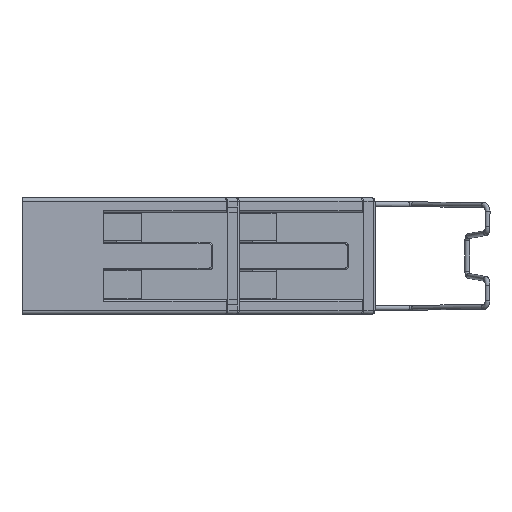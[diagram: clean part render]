
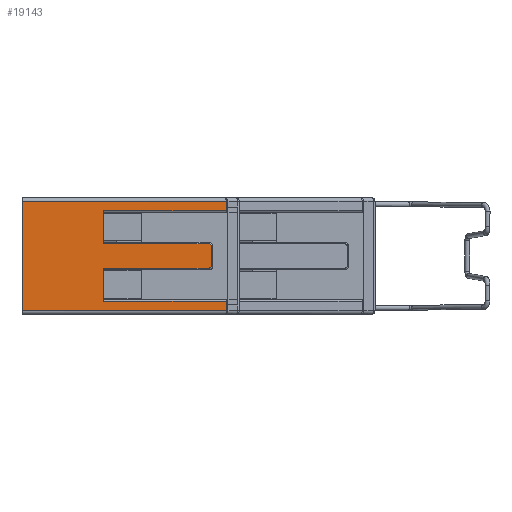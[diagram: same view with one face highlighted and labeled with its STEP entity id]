
A CAD part, left-side view. The second image highlights one B-rep face of the part: STEP entity #19143.
In plain terms, the highlighted planar face has unit normal (-1, -0.006, 0).
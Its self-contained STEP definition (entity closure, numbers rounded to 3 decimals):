
#451=B_SPLINE_CURVE_WITH_KNOTS('',3,(#32672,#32673,#32674,#32675),
 .UNSPECIFIED.,.F.,.F.,(4,4),(0.,1.),.UNSPECIFIED.);
#452=B_SPLINE_CURVE_WITH_KNOTS('',3,(#32679,#32680,#32681,#32682),
 .UNSPECIFIED.,.F.,.F.,(4,4),(0.,1.),.UNSPECIFIED.);
#2006=ORIENTED_EDGE('',*,*,#7049,.T.);
#2007=ORIENTED_EDGE('',*,*,#7050,.T.);
#2008=ORIENTED_EDGE('',*,*,#7051,.T.);
#2009=ORIENTED_EDGE('',*,*,#7052,.T.);
#2010=ORIENTED_EDGE('',*,*,#7053,.T.);
#2011=ORIENTED_EDGE('',*,*,#7054,.T.);
#2012=ORIENTED_EDGE('',*,*,#7055,.T.);
#2013=ORIENTED_EDGE('',*,*,#7056,.T.);
#2014=ORIENTED_EDGE('',*,*,#7057,.T.);
#2015=ORIENTED_EDGE('',*,*,#7047,.F.);
#2016=ORIENTED_EDGE('',*,*,#6752,.F.);
#2017=ORIENTED_EDGE('',*,*,#6795,.F.);
#2018=ORIENTED_EDGE('',*,*,#7058,.T.);
#2019=ORIENTED_EDGE('',*,*,#7059,.T.);
#6752=EDGE_CURVE('',#9850,#9851,#12040,.T.);
#6795=EDGE_CURVE('',#9876,#9850,#12059,.T.);
#7047=EDGE_CURVE('',#9851,#10050,#12240,.T.);
#7049=EDGE_CURVE('',#10051,#10052,#12241,.T.);
#7050=EDGE_CURVE('',#10052,#10053,#12242,.T.);
#7051=EDGE_CURVE('',#10053,#10054,#451,.T.);
#7052=EDGE_CURVE('',#10054,#10055,#12243,.T.);
#7053=EDGE_CURVE('',#10055,#10056,#452,.T.);
#7054=EDGE_CURVE('',#10056,#10057,#12244,.T.);
#7055=EDGE_CURVE('',#10057,#10058,#12245,.T.);
#7056=EDGE_CURVE('',#10058,#10059,#12246,.T.);
#7057=EDGE_CURVE('',#10059,#10050,#12247,.T.);
#7058=EDGE_CURVE('',#9876,#10060,#12248,.T.);
#7059=EDGE_CURVE('',#10060,#10051,#12249,.T.);
#9850=VERTEX_POINT('',#31540);
#9851=VERTEX_POINT('',#31542);
#9876=VERTEX_POINT('',#31700);
#10050=VERTEX_POINT('',#32660);
#10051=VERTEX_POINT('',#32668);
#10052=VERTEX_POINT('',#32669);
#10053=VERTEX_POINT('',#32671);
#10054=VERTEX_POINT('',#32676);
#10055=VERTEX_POINT('',#32678);
#10056=VERTEX_POINT('',#32683);
#10057=VERTEX_POINT('',#32685);
#10058=VERTEX_POINT('',#32687);
#10059=VERTEX_POINT('',#32689);
#10060=VERTEX_POINT('',#32692);
#12040=LINE('',#31541,#14375);
#12059=LINE('',#31701,#14394);
#12240=LINE('',#32659,#14575);
#12241=LINE('',#32667,#14576);
#12242=LINE('',#32670,#14577);
#12243=LINE('',#32677,#14578);
#12244=LINE('',#32684,#14579);
#12245=LINE('',#32686,#14580);
#12246=LINE('',#32688,#14581);
#12247=LINE('',#32690,#14582);
#12248=LINE('',#32691,#14583);
#12249=LINE('',#32693,#14584);
#14375=VECTOR('',#26456,1000.);
#14394=VECTOR('',#26507,1000.);
#14575=VECTOR('',#26818,1000.);
#14576=VECTOR('',#26821,1000.);
#14577=VECTOR('',#26822,1000.);
#14578=VECTOR('',#26823,1000.);
#14579=VECTOR('',#26824,1000.);
#14580=VECTOR('',#26825,1000.);
#14581=VECTOR('',#26826,1000.);
#14582=VECTOR('',#26827,1000.);
#14583=VECTOR('',#26828,1000.);
#14584=VECTOR('',#26829,1000.);
#16530=EDGE_LOOP('',(#2006,#2007,#2008,#2009,#2010,#2011,#2012,#2013,#2014,
#2015,#2016,#2017,#2018,#2019));
#17539=FACE_BOUND('',#16530,.T.);
#18488=PLANE('',#24938);
#19143=ADVANCED_FACE('',(#17539),#18488,.T.);
#24938=AXIS2_PLACEMENT_3D('',#32666,#26819,#26820);
#26456=DIRECTION('',(0.,0.,1.));
#26507=DIRECTION('',(-0.006,1.,0.));
#26818=DIRECTION('',(0.006,-1.,0.));
#26819=DIRECTION('',(-1.,-0.006,0.));
#26820=DIRECTION('',(0.006,-1.,0.));
#26821=DIRECTION('',(0.,0.,1.));
#26822=DIRECTION('',(0.006,-1.,0.));
#26823=DIRECTION('',(0.,0.,1.));
#26824=DIRECTION('',(-0.006,1.,0.));
#26825=DIRECTION('',(0.,0.,1.));
#26826=DIRECTION('',(0.006,-1.,0.));
#26827=DIRECTION('',(0.,0.,1.));
#26828=DIRECTION('',(0.,0.,1.));
#26829=DIRECTION('',(-0.006,1.,0.));
#31540=CARTESIAN_POINT('',(-22.078,96.07,-2.34));
#31541=CARTESIAN_POINT('',(-22.078,96.071,4.91));
#31542=CARTESIAN_POINT('',(-22.078,96.07,12.16));
#31700=CARTESIAN_POINT('',(-21.924,68.969,-2.34));
#31701=CARTESIAN_POINT('',(-22.001,82.52,-2.34));
#32659=CARTESIAN_POINT('',(-22.001,82.52,12.16));
#32660=CARTESIAN_POINT('',(-21.924,68.969,12.16));
#32666=CARTESIAN_POINT('',(-22.086,97.426,-3.065));
#32667=CARTESIAN_POINT('',(-22.017,85.272,1.1));
#32668=CARTESIAN_POINT('',(-22.017,85.271,-1.1));
#32669=CARTESIAN_POINT('',(-22.017,85.271,3.3));
#32670=CARTESIAN_POINT('',(-21.977,78.271,3.3));
#32671=CARTESIAN_POINT('',(-21.937,71.27,3.3));
#32672=CARTESIAN_POINT('',(-21.937,71.27,3.3));
#32673=CARTESIAN_POINT('',(-21.936,71.112,3.3));
#32674=CARTESIAN_POINT('',(-21.935,70.97,3.44));
#32675=CARTESIAN_POINT('',(-21.935,70.97,3.6));
#32676=CARTESIAN_POINT('',(-21.935,70.97,3.6));
#32677=CARTESIAN_POINT('',(-21.935,70.97,4.91));
#32678=CARTESIAN_POINT('',(-21.935,70.97,6.22));
#32679=CARTESIAN_POINT('',(-21.935,70.97,6.22));
#32680=CARTESIAN_POINT('',(-21.935,70.97,6.378));
#32681=CARTESIAN_POINT('',(-21.936,71.111,6.52));
#32682=CARTESIAN_POINT('',(-21.937,71.27,6.52));
#32683=CARTESIAN_POINT('',(-21.937,71.27,6.52));
#32684=CARTESIAN_POINT('',(-21.977,78.271,6.52));
#32685=CARTESIAN_POINT('',(-22.017,85.271,6.52));
#32686=CARTESIAN_POINT('',(-22.017,85.272,8.72));
#32687=CARTESIAN_POINT('',(-22.017,85.271,10.92));
#32688=CARTESIAN_POINT('',(-21.97,77.12,10.92));
#32689=CARTESIAN_POINT('',(-21.924,68.969,10.92));
#32690=CARTESIAN_POINT('',(-21.924,68.969,11.54));
#32691=CARTESIAN_POINT('',(-21.924,68.969,-1.72));
#32692=CARTESIAN_POINT('',(-21.924,68.969,-1.1));
#32693=CARTESIAN_POINT('',(-21.97,77.12,-1.1));
